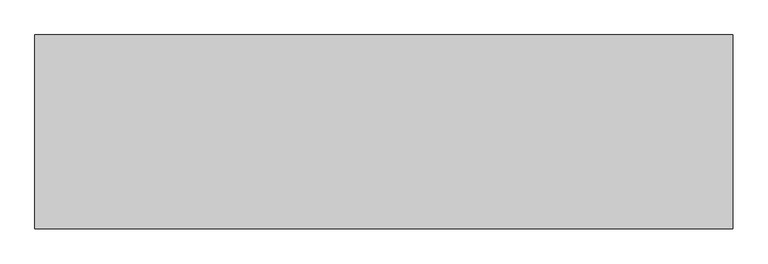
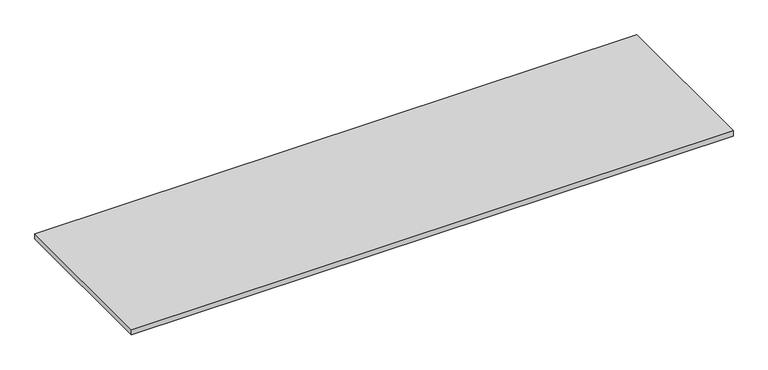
"""IFC4 building model written with IfcOpenShell, lengths in millimetres: furniture geometry, bASE 1.2 : bASE 1.2."""

from ifc_helpers import new_model, si_unit, frame, origin, place, context, project, spatial, polyline, outline, extrude, source, transform, mapped, element, save


def furniture_a68872e7(model_context):
    return source(origin(), model_context, "Body", "SweptSolid", [
        extrude(outline(polyline([(512.6165906, -3617.0637549), (512.6165906, -4217.0637549), (-1647.3834094, -4217.0637549), (-1647.3834094, -3617.0637549), (512.6165906, -3617.0637549)])), frame((0.0, 0.0, 150.0), z_axis=(0.0, 0.0, 1.0), x_axis=(1.0, 0.0, 0.0)), (0.0, 0.0, 1.0), 20.0),
    ])


if __name__ == "__main__":
    model = new_model("IFC4")
    model_context = context("Model", 3, world=origin())
    ifc_project = project(units=[si_unit("LENGTHUNIT", "METRE", prefix="MILLI")], contexts=[model_context])
    site = spatial("IfcSite", under=ifc_project)
    building = spatial("IfcBuilding", under=site)
    placement = place(None, origin())
    furniture_shape = furniture_a68872e7(model_context)
    element("IfcFurniture", 1, ObjectType="bASE 1.2 : bASE 1.2", at=placement, inside=building, context=model_context, shape_type="MappedRepresentation", body=[
        mapped(furniture_shape, transform((0.0, 0.0, 0.0), x_axis=(1.0, 0.0, 0.0), y_axis=(0.0, 1.0, 0.0), z_axis=(0.0, 0.0, 1.0))),
    ])
    save(model, "model.ifc")
